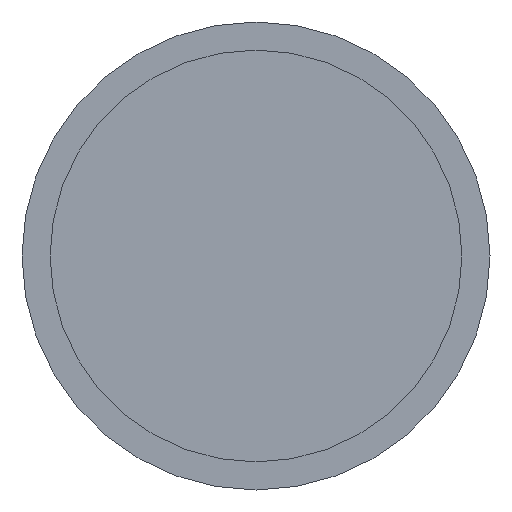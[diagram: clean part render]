
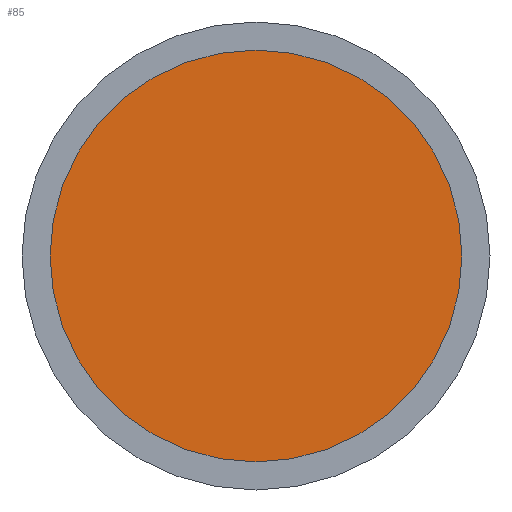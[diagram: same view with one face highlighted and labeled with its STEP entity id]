
A CAD part, front view. The second image highlights one B-rep face of the part: STEP entity #85.
In plain terms, the highlighted planar face has unit normal (0, -1, 0).
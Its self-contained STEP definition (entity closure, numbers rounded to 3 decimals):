
#16=PLANE($,#99);
#27=FACE_OUTER_BOUND($,#37,.T.);
#37=EDGE_LOOP($,(#67));
#46=CIRCLE($,#100,22.);
#52=VERTEX_POINT($,#146);
#58=EDGE_CURVE($,#52,#52,#46,.T.);
#67=ORIENTED_EDGE($,*,*,#58,.F.);
#85=ADVANCED_FACE($,(#27),#16,.T.);
#99=AXIS2_PLACEMENT_3D($,#145,#122,#123);
#100=AXIS2_PLACEMENT_3D($,#147,#124,#125);
#122=DIRECTION('center_axis',(0.,-1.,0.));
#123=DIRECTION('ref_axis',(0.,0.,-1.));
#124=DIRECTION('center_axis',(0.,1.,0.));
#125=DIRECTION('ref_axis',(-1.,0.,0.));
#145=CARTESIAN_POINT('Origin',(-11.,5.,0.));
#146=CARTESIAN_POINT('',(-22.,5.,0.));
#147=CARTESIAN_POINT('Origin',(0.,5.,0.));
